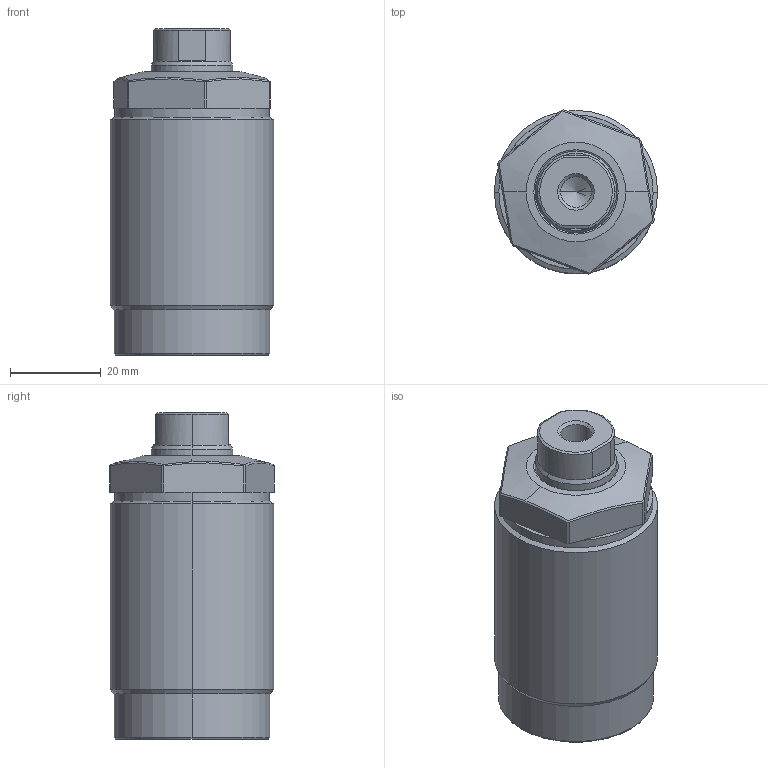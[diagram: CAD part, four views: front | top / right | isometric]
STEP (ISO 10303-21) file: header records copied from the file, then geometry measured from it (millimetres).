
FILE_DESCRIPTION (( 'STEP AP214' ), '1' );
FILE_NAME ('TO3C-M364-M.STEP', '2020-07-10T03:42:59', ( '' ), ( '' ), 'SwSTEP 2.0', 'SolidWorks 2019', '' );
FILE_SCHEMA (( 'AUTOMOTIVE_DESIGN' ));
Length unit declared in the file: millimetre
Products named in the file (3): M36-M-PLUNGER; TO3C-M364-M-BODY; TO3C-M364-M
Assembly tree (2 placements, depth 2):
  TO3C-M364-M
    TO3C-M364-M-BODY
    M36-M-PLUNGER
Bounding box: 36 x 36.23 x 72 mm (x, y, z)
Volume: 63131.9 mm3; surface area: 13378.1 mm2
Topology: 2 solids, 2 shells, 94 faces, 198 edges, 112 vertices
Faces by surface type: plane 45, cone 23, cylinder 20, bspline 6
Entity records: 3475 total; most frequent: CARTESIAN_POINT 1361, DIRECTION 425, ORIENTED_EDGE 392, EDGE_CURVE 196, AXIS2_PLACEMENT_3D 166, VERTEX_POINT 112, EDGE_LOOP 100, ADVANCED_FACE 94
